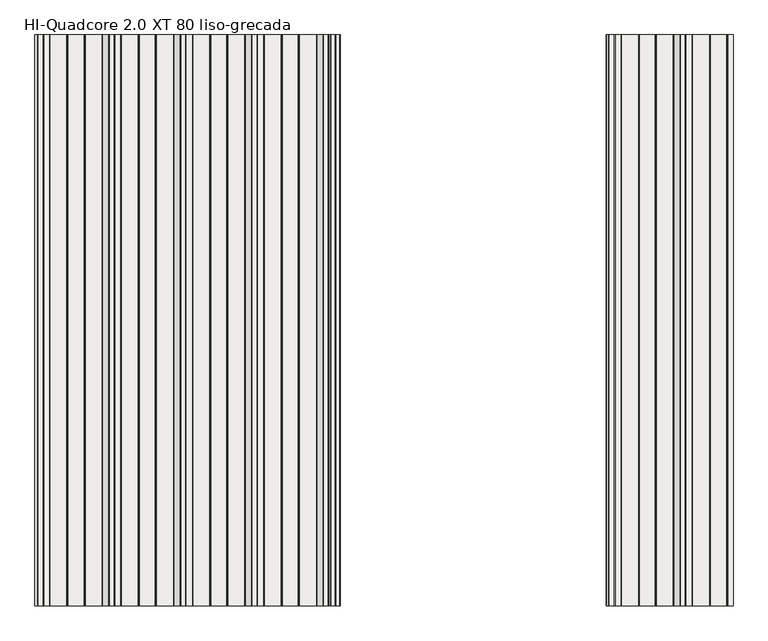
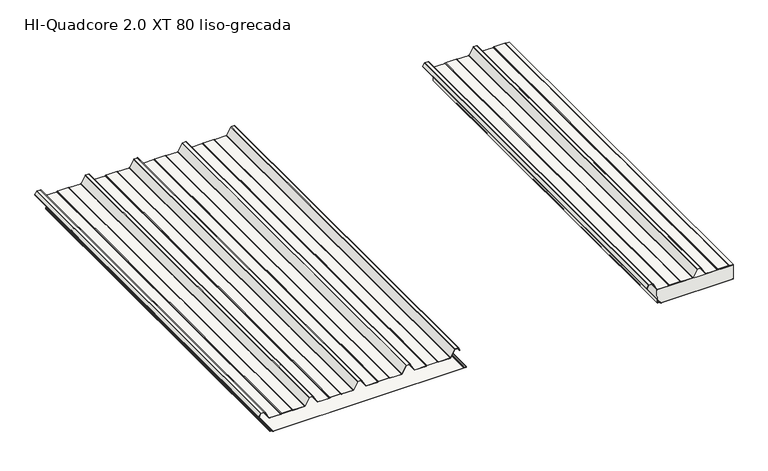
"""IFC4 building model written with IfcOpenShell, lengths in millimetres: slab geometry, HI_QuadCore2.0XT-XT DUAL : HI-Quadcore 2.0 XT 80 liso-grecada."""

from ifc_helpers import new_model, si_unit, point, frame, frame_2d, origin, place, context, project, spatial, polyline, circle_curve, trimmed, segment, composite_curve, outline, extrude, source, transform, mapped, element, save
from ifc_brep_helpers import plane_surface, cylinder_surface, revolved_surface, advanced_brep


def hi_quadcore_2_0_xt_80_liso_grecada_cd35402f(model_context):
    return source(origin(), model_context, "Body", "SolidModel", [
        extrude(outline(composite_curve([segment(polyline([(118.1649405, 2138.5141429), (103.6579587, 2130.3539656)]), True, "CONTINUOUS"), segment(trimmed(circle_curve(frame_2d((103.0451321, 2131.443435)), 1.25), [point((103.6579587, 2130.3539656))], [point((102.689225, 2132.6416963))], False, "CARTESIAN"), True, "CONTINUOUS"), segment(polyline([(102.689225, 2132.6416963), (105.7359115, 2133.437141), (105.9380053, 2132.663088), (102.9074492, 2131.8718547)]), True, "CONTINUOUS"), segment(trimmed(circle_curve(frame_2d((103.0451321, 2131.443435)), 0.45), [point((102.9074492, 2131.8718547))], [point((103.2657497, 2131.051226))], True, "CARTESIAN"), True, "CONTINUOUS"), segment(polyline([(103.2657497, 2131.051226), (117.7727315, 2139.2114033)]), True, "CONTINUOUS"), segment(trimmed(circle_curve(frame_2d((116.4, 2141.6518148)), 2.8), [point((117.7727315, 2139.2114033))], [point((119.2, 2141.6518148))], True, "CARTESIAN"), True, "CONTINUOUS"), segment(polyline([(119.2, 2141.6518148), (119.2, 2158.9311117)]), True, "CONTINUOUS"), segment(trimmed(circle_curve(frame_2d((116.4, 2158.9311117)), 2.8), [point((119.2, 2158.9311117))], [point((117.5457267, 2161.4859719))], True, "CARTESIAN"), True, "CONTINUOUS"), segment(polyline([(117.5457267, 2161.4859719), (81.2048889, 2181.3052775)]), True, "CONTINUOUS"), segment(trimmed(circle_curve(frame_2d((83.0, 2184.6545425)), 3.8), [point((81.2048889, 2181.3052775))], [point((79.2, 2184.6545425))], False, "CARTESIAN"), True, "CONTINUOUS"), segment(polyline([(79.2, 2184.6545425), (79.2, 2242.4489557)]), True, "CONTINUOUS"), segment(trimmed(circle_curve(frame_2d((83.0, 2242.4489557)), 3.8), [point((79.2, 2242.4489557))], [point((79.6973596, 2244.328468))], False, "CARTESIAN"), True, "CONTINUOUS"), segment(polyline([(79.6973596, 2244.328468), (80.912055, 2246.4629056)]), True, "CONTINUOUS"), segment(trimmed(circle_curve(frame_2d((79.0, 2247.5510443)), 2.2), [point((80.912055, 2246.4629056))], [point((81.2, 2247.5510443))], True, "CARTESIAN"), True, "CONTINUOUS"), segment(polyline([(81.2, 2247.5510443), (81.2, 2302.4489557)]), True, "CONTINUOUS"), segment(trimmed(circle_curve(frame_2d((79.0, 2302.4489557)), 2.2), [point((81.2, 2302.4489557))], [point((80.912055, 2303.5370944))], True, "CARTESIAN"), True, "CONTINUOUS"), segment(polyline([(80.912055, 2303.5370944), (79.6973596, 2305.671532)]), True, "CONTINUOUS"), segment(trimmed(circle_curve(frame_2d((83.0, 2307.5510443)), 3.8), [point((79.6973596, 2305.671532))], [point((79.2, 2307.5510443))], False, "CARTESIAN"), True, "CONTINUOUS"), segment(polyline([(79.2, 2307.5510443), (79.2, 2365.7454575)]), True, "CONTINUOUS"), segment(trimmed(circle_curve(frame_2d((83.0, 2365.7454575)), 3.8), [point((79.2, 2365.7454575))], [point((81.1370073, 2369.0574446))], False, "CARTESIAN"), True, "CONTINUOUS"), segment(polyline([(81.1370073, 2369.0574446), (118.0785747, 2389.8370763)]), True, "CONTINUOUS"), segment(trimmed(circle_curve(frame_2d((117.0, 2391.7545425)), 2.2), [point((118.0785747, 2389.8370763))], [point((119.2, 2391.7545425))], True, "CARTESIAN"), True, "CONTINUOUS"), segment(polyline([(119.2, 2391.7545425), (119.2, 2408.2454575)]), True, "CONTINUOUS"), segment(trimmed(circle_curve(frame_2d((117.0, 2408.2454575)), 2.2), [point((119.2, 2408.2454575))], [point((118.0785747, 2410.1629237))], True, "CARTESIAN"), True, "CONTINUOUS"), segment(polyline([(118.0785747, 2410.1629237), (81.1370073, 2430.9425554)]), True, "CONTINUOUS"), segment(trimmed(circle_curve(frame_2d((83.0, 2434.2545425)), 3.8), [point((81.1370073, 2430.9425554))], [point((79.2, 2434.2545425))], False, "CARTESIAN"), True, "CONTINUOUS"), segment(polyline([(79.2, 2434.2545425), (79.2, 2492.4489557)]), True, "CONTINUOUS"), segment(trimmed(circle_curve(frame_2d((83.0, 2492.4489557)), 3.8), [point((79.2, 2492.4489557))], [point((79.6973596, 2494.328468))], False, "CARTESIAN"), True, "CONTINUOUS"), segment(polyline([(79.6973596, 2494.328468), (80.912055, 2496.4629056)]), True, "CONTINUOUS"), segment(trimmed(circle_curve(frame_2d((79.0, 2497.5510443)), 2.2), [point((80.912055, 2496.4629056))], [point((81.2, 2497.5510443))], True, "CARTESIAN"), True, "CONTINUOUS"), segment(polyline([(81.2, 2497.5510443), (81.2, 2552.4489557)]), True, "CONTINUOUS"), segment(trimmed(circle_curve(frame_2d((79.0, 2552.4489557)), 2.2), [point((81.2, 2552.4489557))], [point((80.912055, 2553.5370944))], True, "CARTESIAN"), True, "CONTINUOUS"), segment(polyline([(80.912055, 2553.5370944), (79.6973596, 2555.671532)]), True, "CONTINUOUS"), segment(trimmed(circle_curve(frame_2d((83.0, 2557.5510443)), 3.8), [point((79.6973596, 2555.671532))], [point((79.2, 2557.5510443))], False, "CARTESIAN"), True, "CONTINUOUS"), segment(polyline([(79.2, 2557.5510443), (79.2, 2574.9094573), (80.0, 2574.9094573), (80.0, 2557.5510443)]), True, "CONTINUOUS"), segment(trimmed(circle_curve(frame_2d((83.0, 2557.5510443)), 3.0), [point((80.0, 2557.5510443))], [point((80.3926523, 2556.0672188))], True, "CARTESIAN"), True, "CONTINUOUS"), segment(polyline([(80.3926523, 2556.0672188), (81.6073477, 2553.9327812)]), True, "CONTINUOUS"), segment(trimmed(circle_curve(frame_2d((79.0, 2552.4489557)), 3.0), [point((81.6073477, 2553.9327812))], [point((82.0, 2552.4489557))], False, "CARTESIAN"), True, "CONTINUOUS"), segment(polyline([(82.0, 2552.4489557), (82.0, 2497.5510443)]), True, "CONTINUOUS"), segment(trimmed(circle_curve(frame_2d((79.0, 2497.5510443)), 3.0), [point((82.0, 2497.5510443))], [point((81.6073477, 2496.0672188))], False, "CARTESIAN"), True, "CONTINUOUS"), segment(polyline([(81.6073477, 2496.0672188), (80.3926523, 2493.9327812)]), True, "CONTINUOUS"), segment(trimmed(circle_curve(frame_2d((83.0, 2492.4489557)), 3.0), [point((80.3926523, 2493.9327812))], [point((80.0, 2492.4489557))], True, "CARTESIAN"), True, "CONTINUOUS"), segment(polyline([(80.0, 2492.4489557), (80.0, 2434.2545425)]), True, "CONTINUOUS"), segment(trimmed(circle_curve(frame_2d((83.0, 2434.2545425)), 3.0), [point((80.0, 2434.2545425))], [point((81.5292163, 2431.6398158))], True, "CARTESIAN"), True, "CONTINUOUS"), segment(polyline([(81.5292163, 2431.6398158), (118.4707837, 2410.8601842)]), True, "CONTINUOUS"), segment(trimmed(circle_curve(frame_2d((117.0, 2408.2454575)), 3.0), [point((118.4707837, 2410.8601842))], [point((120.0, 2408.2454575))], False, "CARTESIAN"), True, "CONTINUOUS"), segment(polyline([(120.0, 2408.2454575), (120.0, 2391.7545425)]), True, "CONTINUOUS"), segment(trimmed(circle_curve(frame_2d((117.0, 2391.7545425)), 3.0), [point((120.0, 2391.7545425))], [point((118.4707837, 2389.1398158))], False, "CARTESIAN"), True, "CONTINUOUS"), segment(polyline([(118.4707837, 2389.1398158), (81.5292163, 2368.3601842)]), True, "CONTINUOUS"), segment(trimmed(circle_curve(frame_2d((83.0, 2365.7454575)), 3.0), [point((81.5292163, 2368.3601842))], [point((80.0, 2365.7454575))], True, "CARTESIAN"), True, "CONTINUOUS"), segment(polyline([(80.0, 2365.7454575), (80.0, 2307.5510443)]), True, "CONTINUOUS"), segment(trimmed(circle_curve(frame_2d((83.0, 2307.5510443)), 3.0), [point((80.0, 2307.5510443))], [point((80.3926523, 2306.0672188))], True, "CARTESIAN"), True, "CONTINUOUS"), segment(polyline([(80.3926523, 2306.0672188), (81.6073477, 2303.9327812)]), True, "CONTINUOUS"), segment(trimmed(circle_curve(frame_2d((79.0, 2302.4489557)), 3.0), [point((81.6073477, 2303.9327812))], [point((82.0, 2302.4489557))], False, "CARTESIAN"), True, "CONTINUOUS"), segment(polyline([(82.0, 2302.4489557), (82.0, 2247.5510443)]), True, "CONTINUOUS"), segment(trimmed(circle_curve(frame_2d((79.0, 2247.5510443)), 3.0), [point((82.0, 2247.5510443))], [point((81.6073477, 2246.0672188))], False, "CARTESIAN"), True, "CONTINUOUS"), segment(polyline([(81.6073477, 2246.0672188), (80.3926523, 2243.9327812)]), True, "CONTINUOUS"), segment(trimmed(circle_curve(frame_2d((83.0, 2242.4489557)), 3.0), [point((80.3926523, 2243.9327812))], [point((80.0, 2242.4489557))], True, "CARTESIAN"), True, "CONTINUOUS"), segment(polyline([(80.0, 2242.4489557), (80.0, 2184.6545425)]), True, "CONTINUOUS"), segment(trimmed(circle_curve(frame_2d((83.0, 2184.6545425)), 3.0), [point((80.0, 2184.6545425))], [point((81.5852209, 2182.0090935))], True, "CARTESIAN"), True, "CONTINUOUS"), segment(polyline([(81.5852209, 2182.0090935), (117.9031732, 2162.2022691)]), True, "CONTINUOUS"), segment(trimmed(circle_curve(frame_2d((116.4, 2158.9311117)), 3.6), [point((117.9031732, 2162.2022691))], [point((120.0, 2158.9311117))], False, "CARTESIAN"), True, "CONTINUOUS"), segment(polyline([(120.0, 2158.9311117), (120.0, 2141.6518148)]), True, "CONTINUOUS"), segment(trimmed(circle_curve(frame_2d((116.4, 2141.6518148)), 3.6), [point((120.0, 2141.6518148))], [point((118.1649405, 2138.5141429))], False, "CARTESIAN"), True, "CONTINUOUS")], self_intersect=False)), frame((0.0, 0.0, 0.0), z_axis=(0.0, 1.0, 0.0), x_axis=(0.0, 0.0, 1.0)), (0.0, 0.0, 1.0), 2000.0),
        extrude(outline(composite_curve([segment(trimmed(circle_curve(frame_2d((11.9759207, 2187.8456418)), 2.0), [point((13.390095, 2186.4313891))], [point((11.9758652, 2185.8456418))], False, "CARTESIAN"), True, "CONTINUOUS"), segment(polyline([(11.9758652, 2185.8456418), (8.333684, 2185.8457428)]), True, "CONTINUOUS"), segment(trimmed(circle_curve(frame_2d((8.3337394, 2187.8457428)), 2.0), [point((8.333684, 2185.8457428))], [point((6.3390802, 2187.6996787))], False, "CARTESIAN"), True, "CONTINUOUS"), segment(polyline([(6.3390802, 2187.6996787), (5.5769243, 2198.1077232)]), True, "CONTINUOUS"), segment(trimmed(circle_curve(frame_2d((3.5874027, 2197.9032632)), 2.0), [point((5.5769243, 2198.1077232))], [point((3.5874582, 2199.9032632))], True, "CARTESIAN"), True, "CONTINUOUS"), segment(polyline([(3.5874582, 2199.9032632), (1.9861383, 2199.9033076)]), True, "CONTINUOUS"), segment(trimmed(circle_curve(frame_2d((1.9861938, 2201.9033076)), 2.0), [point((1.9861383, 2199.9033076))], [point((-0.0138062, 2201.903363))], False, "CARTESIAN"), True, "CONTINUOUS"), segment(polyline([(-0.0138062, 2201.903363), (-0.0034654, 2574.9094573), (0.7965346, 2574.9094573), (0.7861938, 2201.9033408)]), True, "CONTINUOUS"), segment(trimmed(circle_curve(frame_2d((1.9861938, 2201.9033076)), 1.2), [point((0.7861938, 2201.9033408))], [point((1.9861605, 2200.7033076))], True, "CARTESIAN"), True, "CONTINUOUS"), segment(polyline([(1.9861605, 2200.7033076), (3.5874804, 2200.7032632)]), True, "CONTINUOUS"), segment(trimmed(circle_curve(frame_2d((3.5874027, 2197.9032632)), 2.8), [point((3.5874804, 2200.7032632))], [point((6.3740035, 2198.1768616))], False, "CARTESIAN"), True, "CONTINUOUS"), segment(polyline([(6.3740035, 2198.1768616), (7.1369439, 2187.7581044)]), True, "CONTINUOUS"), segment(trimmed(circle_curve(frame_2d((8.3337394, 2187.8457428)), 1.2), [point((7.1369439, 2187.7581044))], [point((8.3337062, 2186.6457428))], True, "CARTESIAN"), True, "CONTINUOUS"), segment(polyline([(8.3337062, 2186.6457428), (11.9758874, 2186.6456418)]), True, "CONTINUOUS"), segment(trimmed(circle_curve(frame_2d((11.9759207, 2187.8456418)), 1.2), [point((11.9758874, 2186.6456418))], [point((12.8244253, 2186.9970902))], True, "CARTESIAN"), True, "CONTINUOUS"), segment(polyline([(12.8244253, 2186.9970902), (14.9306702, 2189.1032183), (15.4963556, 2188.5375329), (13.390095, 2186.4313891)]), True, "CONTINUOUS")], self_intersect=False)), frame((0.0, 0.0, 0.0), z_axis=(0.0, 1.0, 0.0), x_axis=(0.0, 0.0, 1.0)), (0.0, 0.0, 1.0), 2000.0),
        extrude(outline(composite_curve([segment(polyline([(14.9306702, 2189.1032183), (12.8244253, 2186.9970902)]), True, "CONTINUOUS"), segment(trimmed(circle_curve(frame_2d((11.9759207, 2187.8456418)), 1.2), [point((12.8244253, 2186.9970902))], [point((11.9758874, 2186.6456418))], False, "CARTESIAN"), True, "CONTINUOUS"), segment(polyline([(11.9758874, 2186.6456418), (8.3337062, 2186.6457428)]), True, "CONTINUOUS"), segment(trimmed(circle_curve(frame_2d((8.3337394, 2187.8457428)), 1.2), [point((8.3337062, 2186.6457428))], [point((7.1369439, 2187.7581044))], False, "CARTESIAN"), True, "CONTINUOUS"), segment(polyline([(7.1369439, 2187.7581044), (6.3740035, 2198.1768616)]), True, "CONTINUOUS"), segment(trimmed(circle_curve(frame_2d((3.5874027, 2197.9032632)), 2.8), [point((6.3740035, 2198.1768616))], [point((3.5874804, 2200.7032632))], True, "CARTESIAN"), True, "CONTINUOUS"), segment(polyline([(3.5874804, 2200.7032632), (1.9861605, 2200.7033076)]), True, "CONTINUOUS"), segment(trimmed(circle_curve(frame_2d((1.9861938, 2201.9033076)), 1.2), [point((1.9861605, 2200.7033076))], [point((0.7861938, 2201.9033408))], False, "CARTESIAN"), True, "CONTINUOUS"), segment(polyline([(0.7861938, 2201.9033408), (0.7965346, 2574.9094573), (78.0, 2574.9094573), (78.0, 2181.4416817), (7.0308356, 2184.4622222), (7.2414508, 2185.8457731), (11.9758652, 2185.8456418)]), True, "CONTINUOUS"), segment(trimmed(circle_curve(frame_2d((11.9759207, 2187.8456418)), 2.0), [point((11.9758652, 2185.8456418))], [point((13.390095, 2186.4313891))], True, "CARTESIAN"), True, "CONTINUOUS"), segment(polyline([(13.390095, 2186.4313891), (15.4963556, 2188.5375329), (14.9306702, 2189.1032183)]), True, "CONTINUOUS")], self_intersect=False)), frame((0.0, 0.0, 0.0), z_axis=(0.0, 1.0, 0.0), x_axis=(0.0, 0.0, 1.0)), (0.0, 0.0, 1.0), 2000.0),
        advanced_brep(
        [(186.4313891, 0.0, 13.3795578), (185.8456418, 0.0, 11.9654043), (185.8456037, 0.0, 8.2995811), (187.6996787, 0.0, 6.328543), (198.1077232, 0.0, 5.5663871), (199.9032632, 0.0, 3.5769209), (199.9033076, 0.0, 1.9756011), (201.903363, 0.0, -0.0243435), (1197.9162803, 0.0, 0.003269), (1199.9046779, 0.0, 2.0032908), (1199.904653, 0.0, 2.9012893), (1198.0077486, 0.0, 4.8985749), (1186.1928118, 0.0, 5.7933732), (1184.3438482, 0.0, 7.7876066), (1184.3437386, 0.0, 11.7402379), (1183.757913, 0.0, 13.1544352), (1182.3436602, 0.0, 14.5686095), (1181.7779748, 0.0, 14.0029241), (1183.1922433, 0.0, 12.5887341), (1183.5437386, 0.0, 11.7402157), (1183.5438482, 0.0, 7.7875844), (1186.1323972, 0.0, 4.9956577), (1197.958132, 0.0, 4.1000416), (1199.104653, 0.0, 2.9012672), (1199.1046779, 0.0, 2.0032686), (1197.9136554, 0.0, 0.8032689), (201.9033408, 0.0, 0.7756565), (200.7033076, 0.0, 1.9756233), (200.7032632, 0.0, 3.5769431), (198.1768616, 0.0, 6.3634663), (187.7581044, 0.0, 7.1264067), (186.6457428, 0.0, 8.3231689), (186.6456418, 0.0, 11.965396), (186.9970902, 0.0, 12.8138881), (189.1032183, 0.0, 14.920133), (188.5375329, 0.0, 15.4858184), (186.4313891, 2000.0, 13.3795578), (188.5375329, 2000.0, 15.4858184), (189.1032183, 2000.0, 14.920133), (186.9970902, 2000.0, 12.8138881), (186.6456418, 2000.0, 11.965396), (186.6456037, 2000.0, 8.2995728), (187.7581044, 2000.0, 7.1264067), (198.1768616, 2000.0, 6.3634663), (200.7032632, 2000.0, 3.5769431), (200.7033076, 2000.0, 1.9756233), (201.9033408, 2000.0, 0.7756565), (1197.9136554, 2000.0, 0.8032689), (1199.1046779, 2000.0, 2.0032686), (1199.104653, 2000.0, 2.9012672), (1197.958132, 2000.0, 4.1000416), (1186.1323972, 2000.0, 4.9956577), (1183.5438482, 2000.0, 7.7875844), (1183.5437386, 2000.0, 11.7402157), (1183.1922433, 2000.0, 12.5887341), (1181.7779748, 2000.0, 14.0029241), (1182.3436602, 2000.0, 14.5686095), (1183.757913, 2000.0, 13.1544352), (1184.3437386, 2000.0, 11.7402379), (1184.3438482, 2000.0, 7.7876066), (1186.1928118, 2000.0, 5.7933732), (1198.0077486, 2000.0, 4.8985749), (1199.904653, 2000.0, 2.9012893), (1199.9046779, 2000.0, 2.0032908), (1197.9162803, 2000.0, 0.003269), (201.903363, 2000.0, -0.0243435), (199.9033076, 2000.0, 1.9756011), (199.9032632, 2000.0, 3.5769209), (198.1077232, 2000.0, 5.5663871), (187.6996787, 2000.0, 6.328543), (185.8457428, 2000.0, 8.3231467), (185.8456418, 2000.0, 11.9654043)],
        [
            (0, 1, circle_curve(frame((187.8456418, 0.0, 11.9653834), z_axis=(0.0, -1.0, 0.0), x_axis=(1.0, 0.0, 0.0)), 2.0)),
            (1, 2),
            (2, 3, circle_curve(frame((187.8457428, 0.0, 8.3232022), z_axis=(0.0, -1.0, 0.0), x_axis=(1.0, 0.0, 0.0)), 2.0)),
            (3, 4),
            (4, 5, circle_curve(frame((197.9032632, 0.0, 3.5768655), z_axis=(0.0, 1.0, 0.0), x_axis=(1.0, 0.0, 0.0)), 2.0)),
            (5, 6),
            (6, 7, circle_curve(frame((201.9033076, 0.0, 1.9756565), z_axis=(0.0, -1.0, 0.0), x_axis=(1.0, 0.0, 0.0)), 2.0)),
            (7, 8),
            (8, 9, circle_curve(frame((1197.9046779, 0.0, 2.0032353), z_axis=(0.0, -1.0, 0.0), x_axis=(1.0, 0.0, 0.0)), 2.0)),
            (9, 10),
            (10, 11, circle_curve(frame((1197.904653, 0.0, 2.9012339), z_axis=(0.0, -1.0, 0.0), x_axis=(1.0, 0.0, 0.0)), 2.0)),
            (11, 12),
            (12, 13, circle_curve(frame((1186.3438482, 0.0, 7.7876621), z_axis=(0.0, 1.0, 0.0), x_axis=(1.0, 0.0, 0.0)), 2.0)),
            (13, 14),
            (14, 15, circle_curve(frame((1182.3437386, 0.0, 11.7401824), z_axis=(0.0, -1.0, 0.0), x_axis=(1.0, 0.0, 0.0)), 2.0)),
            (15, 16),
            (16, 17),
            (17, 18),
            (18, 19, circle_curve(frame((1182.3437386, 0.0, 11.7401824), z_axis=(0.0, 1.0, 0.0), x_axis=(1.0, 0.0, 0.0)), 1.2)),
            (19, 20),
            (20, 21, circle_curve(frame((1186.3438482, 0.0, 7.7876621), z_axis=(0.0, -1.0, 0.0), x_axis=(1.0, 0.0, 0.0)), 2.8)),
            (21, 22),
            (22, 23, circle_curve(frame((1197.904653, 0.0, 2.9012339), z_axis=(0.0, 1.0, 0.0), x_axis=(1.0, 0.0, 0.0)), 1.2)),
            (23, 24),
            (24, 25, circle_curve(frame((1197.9046779, 0.0, 2.0032353), z_axis=(0.0, 1.0, 0.0), x_axis=(1.0, 0.0, 0.0)), 1.2)),
            (25, 26),
            (26, 27, circle_curve(frame((201.9033076, 0.0, 1.9756565), z_axis=(0.0, 1.0, 0.0), x_axis=(1.0, 0.0, 0.0)), 1.2)),
            (27, 28),
            (28, 29, circle_curve(frame((197.9032632, 0.0, 3.5768655), z_axis=(0.0, -1.0, 0.0), x_axis=(1.0, 0.0, 0.0)), 2.8)),
            (29, 30),
            (30, 31, circle_curve(frame((187.8457428, 0.0, 8.3232022), z_axis=(0.0, 1.0, 0.0), x_axis=(1.0, 0.0, 0.0)), 1.2)),
            (31, 32),
            (32, 33, circle_curve(frame((187.8456418, 0.0, 11.9653834), z_axis=(0.0, 1.0, 0.0), x_axis=(1.0, 0.0, 0.0)), 1.2)),
            (33, 34),
            (34, 35),
            (35, 0),
            (36, 37),
            (37, 38),
            (38, 39),
            (39, 40, circle_curve(frame((187.8456418, 2000.0, 11.9653834), z_axis=(0.0, -1.0, 0.0), x_axis=(1.0, 0.0, 0.0)), 1.2)),
            (40, 41),
            (41, 42, circle_curve(frame((187.8457428, 2000.0, 8.3232022), z_axis=(0.0, -1.0, 0.0), x_axis=(1.0, 0.0, 0.0)), 1.2)),
            (42, 43),
            (43, 44, circle_curve(frame((197.9032632, 2000.0, 3.5768655), z_axis=(0.0, 1.0, 0.0), x_axis=(1.0, 0.0, 0.0)), 2.8)),
            (44, 45),
            (45, 46, circle_curve(frame((201.9033076, 2000.0, 1.9756565), z_axis=(0.0, -1.0, 0.0), x_axis=(1.0, 0.0, 0.0)), 1.2)),
            (46, 47),
            (47, 48, circle_curve(frame((1197.9046779, 2000.0, 2.0032353), z_axis=(0.0, -1.0, 0.0), x_axis=(1.0, 0.0, 0.0)), 1.2)),
            (48, 49),
            (49, 50, circle_curve(frame((1197.904653, 2000.0, 2.9012339), z_axis=(0.0, -1.0, 0.0), x_axis=(1.0, 0.0, 0.0)), 1.2)),
            (50, 51),
            (51, 52, circle_curve(frame((1186.3438482, 2000.0, 7.7876621), z_axis=(0.0, 1.0, 0.0), x_axis=(1.0, 0.0, 0.0)), 2.8)),
            (52, 53),
            (53, 54, circle_curve(frame((1182.3437386, 2000.0, 11.7401824), z_axis=(0.0, -1.0, 0.0), x_axis=(1.0, 0.0, 0.0)), 1.2)),
            (54, 55),
            (55, 56),
            (56, 57),
            (57, 58, circle_curve(frame((1182.3437386, 2000.0, 11.7401824), z_axis=(0.0, 1.0, 0.0), x_axis=(1.0, 0.0, 0.0)), 2.0)),
            (58, 59),
            (59, 60, circle_curve(frame((1186.3438482, 2000.0, 7.7876621), z_axis=(0.0, -1.0, 0.0), x_axis=(1.0, 0.0, 0.0)), 2.0)),
            (60, 61),
            (61, 62, circle_curve(frame((1197.904653, 2000.0, 2.9012339), z_axis=(0.0, 1.0, 0.0), x_axis=(1.0, 0.0, 0.0)), 2.0)),
            (62, 63),
            (63, 64, circle_curve(frame((1197.9046779, 2000.0, 2.0032353), z_axis=(0.0, 1.0, 0.0), x_axis=(1.0, 0.0, 0.0)), 2.0)),
            (64, 65),
            (65, 66, circle_curve(frame((201.9033076, 2000.0, 1.9756565), z_axis=(0.0, 1.0, 0.0), x_axis=(1.0, 0.0, 0.0)), 2.0)),
            (66, 67),
            (67, 68, circle_curve(frame((197.9032632, 2000.0, 3.5768655), z_axis=(0.0, -1.0, 0.0), x_axis=(1.0, 0.0, 0.0)), 2.0)),
            (68, 69),
            (69, 70, circle_curve(frame((187.8457428, 2000.0, 8.3232022), z_axis=(0.0, 1.0, 0.0), x_axis=(1.0, 0.0, 0.0)), 2.0)),
            (70, 71),
            (71, 36, circle_curve(frame((187.8456418, 2000.0, 11.9653834), z_axis=(0.0, 1.0, 0.0), x_axis=(1.0, 0.0, 0.0)), 2.0)),
            (0, 36),
            (71, 1),
            (70, 2),
            (69, 3),
            (68, 4),
            (67, 5),
            (66, 6),
            (65, 7),
            (64, 8),
            (63, 9),
            (62, 10),
            (61, 11),
            (60, 12),
            (59, 13),
            (58, 14),
            (57, 15),
            (56, 16),
            (55, 17),
            (54, 18),
            (53, 19),
            (52, 20),
            (51, 21),
            (50, 22),
            (49, 23),
            (48, 24),
            (47, 25),
            (46, 26),
            (45, 27),
            (44, 28),
            (43, 29),
            (42, 30),
            (41, 31),
            (40, 32),
            (39, 33),
            (38, 34),
            (37, 35),
        ],
        [
            plane_surface(frame((189.8456418, 0.0, 11.9653834), z_axis=(0.0, -1.0, 0.0), x_axis=(0.0, 0.0, 1.0))),
            plane_surface(frame((189.8456418, 2000.0, 11.9653834), z_axis=(0.0, 1.0, 0.0), x_axis=(0.0, 0.0, -1.0))),
            cylinder_surface(frame((187.8456418, 2000.0, 11.9653834), z_axis=(0.0, -1.0, 0.0), x_axis=(1.0, 0.0, 0.0)), 2.0),
            plane_surface(frame((185.8456418, 0.0, 11.9654043), z_axis=(-0.9999999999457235, 0.0, 1.041887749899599e-05), x_axis=(0.0, 1.0, 0.0))),
            cylinder_surface(frame((187.8457428, 2000.0, 8.3232022), z_axis=(0.0, -1.0, 0.0), x_axis=(1.0, 0.0, 0.0)), 2.0),
            plane_surface(frame((187.6996787, 0.0, 6.328543), z_axis=(-0.07303203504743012, 0.0, -0.9973295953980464), x_axis=(0.0, 1.0, 0.0))),
            revolved_surface(polyline([(199.9032632, 2000.0, 3.5768655), (199.9032632, 0.0, 3.5768655)]), (197.9032632, 2000.0, 3.5768655), (0.0, 1.0, 0.0)),
            plane_surface(frame((199.9032632, 0.0, 3.5769209), z_axis=(-0.9999999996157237, 0.0, -2.7722781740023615e-05), x_axis=(0.0, 1.0, 0.0))),
            cylinder_surface(frame((201.9033076, 2000.0, 1.9756565), z_axis=(0.0, -1.0, 0.0), x_axis=(1.0, 0.0, 0.0)), 2.0),
            plane_surface(frame((201.903363, 0.0, -0.0243435), z_axis=(2.772298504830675e-05, 0.0, -0.9999999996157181), x_axis=(0.0, 1.0, 0.0))),
            cylinder_surface(frame((1197.9046779, 2000.0, 2.0032353), z_axis=(0.0, -1.0, 0.0), x_axis=(1.0, 0.0, 0.0)), 2.0),
            plane_surface(frame((1199.9046779, 0.0, 2.0032908), z_axis=(0.9999999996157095, 0.0, 2.7723295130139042e-05), x_axis=(0.0, 1.0, 0.0))),
            cylinder_surface(frame((1197.904653, 2000.0, 2.9012339), z_axis=(0.0, -1.0, 0.0), x_axis=(1.0, 0.0, 0.0)), 2.0),
            plane_surface(frame((1198.0077486, 0.0, 4.8985749), z_axis=(0.07551822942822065, 0.0, 0.9971444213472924), x_axis=(0.0, 1.0, 0.0))),
            revolved_surface(polyline([(1188.3438482, 2000.0, 7.7876621), (1188.3438482, 0.0, 7.7876621)]), (1186.3438482, 2000.0, 7.7876621), (0.0, 1.0, 0.0)),
            plane_surface(frame((1184.3438482, 0.0, 7.7876066), z_axis=(0.9999999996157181, 0.0, 2.7722984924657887e-05), x_axis=(0.0, 1.0, 0.0))),
            cylinder_surface(frame((1182.3437386, 2000.0, 11.7401824), z_axis=(0.0, -1.0, 0.0), x_axis=(1.0, 0.0, 0.0)), 2.0),
            plane_surface(frame((1183.757913, 0.0, 13.1544352), z_axis=(0.7070871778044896, 0.0, 0.7071263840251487), x_axis=(0.0, 1.0, 0.0))),
            plane_surface(frame((1182.3436602, 0.0, 14.5686095), z_axis=(-0.7071067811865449, 0.0, 0.7071067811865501), x_axis=(0.0, 1.0, 0.0))),
            plane_surface(frame((1181.7779748, 0.0, 14.0029241), z_axis=(-0.7070871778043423, 0.0, -0.707126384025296), x_axis=(0.0, 1.0, 0.0))),
            revolved_surface(polyline([(1183.5437386, 2000.0, 11.7401824), (1183.5437386, 0.0, 11.7401824)]), (1182.3437386, 2000.0, 11.7401824), (0.0, 1.0, 0.0)),
            plane_surface(frame((1183.5437386, 0.0, 11.7402157), z_axis=(-0.9999999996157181, 0.0, -2.7722985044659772e-05), x_axis=(0.0, 1.0, 0.0))),
            cylinder_surface(frame((1186.3438482, 2000.0, 7.7876621), z_axis=(0.0, -1.0, 0.0), x_axis=(1.0, 0.0, 0.0)), 2.8),
            plane_surface(frame((1186.1323972, 0.0, 4.9956577), z_axis=(-0.07551822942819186, 0.0, -0.9971444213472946), x_axis=(0.0, 1.0, 0.0))),
            revolved_surface(polyline([(1199.104653, 2000.0, 2.9012339), (1199.104653, 0.0, 2.9012339)]), (1197.904653, 2000.0, 2.9012339), (0.0, 1.0, 0.0)),
            plane_surface(frame((1199.104653, 0.0, 2.9012672), z_axis=(-0.9999999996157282, 0.0, -2.7722622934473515e-05), x_axis=(0.0, 1.0, 0.0))),
            revolved_surface(polyline([(1199.1046779, 2000.0, 2.0032353), (1199.1046779, 0.0, 2.0032353)]), (1197.9046779, 2000.0, 2.0032353), (0.0, 1.0, 0.0)),
            plane_surface(frame((1197.9136554, 0.0, 0.8032689), z_axis=(-2.7722985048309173e-05, 0.0, 0.9999999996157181), x_axis=(0.0, 1.0, 0.0))),
            revolved_surface(polyline([(203.1033076, 2000.0, 1.9756565), (203.1033076, 0.0, 1.9756565)]), (201.9033076, 2000.0, 1.9756565), (0.0, 1.0, 0.0)),
            plane_surface(frame((200.7033076, 0.0, 1.9756233), z_axis=(0.9999999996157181, 0.0, 2.7722983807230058e-05), x_axis=(0.0, 1.0, 0.0))),
            cylinder_surface(frame((197.9032632, 2000.0, 3.5768655), z_axis=(0.0, -1.0, 0.0), x_axis=(1.0, 0.0, 0.0)), 2.8),
            plane_surface(frame((198.1768616, 0.0, 6.3634663), z_axis=(0.0730320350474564, 0.0, 0.9973295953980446), x_axis=(0.0, 1.0, 0.0))),
            revolved_surface(polyline([(189.0457428, 2000.0, 8.3232022), (189.0457428, 0.0, 8.3232022)]), (187.8457428, 2000.0, 8.3232022), (0.0, 1.0, 0.0)),
            plane_surface(frame((186.6456037, 0.0, 8.2995728), z_axis=(0.9999999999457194, 0.0, -1.0419274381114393e-05), x_axis=(0.0, 1.0, 0.0))),
            revolved_surface(polyline([(189.0456418, 2000.0, 11.9653834), (189.0456418, 0.0, 11.9653834)]), (187.8456418, 2000.0, 11.9653834), (0.0, 1.0, 0.0)),
            plane_surface(frame((186.9970902, 0.0, 12.8138881), z_axis=(0.7071263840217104, 0.0, -0.7070871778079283), x_axis=(0.0, 1.0, 0.0))),
            plane_surface(frame((189.1032183, 0.0, 14.920133), z_axis=(0.7071067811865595, 0.0, 0.7071067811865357), x_axis=(0.0, 1.0, 0.0))),
            plane_surface(frame((188.5375329, 0.0, 15.4858184), z_axis=(-0.7071263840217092, 0.0, 0.7070871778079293), x_axis=(0.0, 1.0, 0.0))),
        ],
        [
            (0, [[1, 2, 3, 4, 5, 6, 7, 8, 9, 10, 11, 12, 13, 14, 15, 16, 17, 18, 19, 20, 21, 22, 23, 24, 25, 26, 27, 28, 29, 30, 31, 32, 33, 34, 35, 36]]),
            (1, [[37, 38, 39, 40, 41, 42, 43, 44, 45, 46, 47, 48, 49, 50, 51, 52, 53, 54, 55, 56, 57, 58, 59, 60, 61, 62, 63, 64, 65, 66, 67, 68, 69, 70, 71, 72]]),
            (2, [[-1, 73, -72, 74]]),
            (3, [[-2, -74, -71, 75]]),
            (4, [[-3, -75, -70, 76]]),
            (5, [[-4, -76, -69, 77]]),
            (6, [[-5, -77, -68, 78]]),
            (7, [[-6, -78, -67, 79]]),
            (8, [[-7, -79, -66, 80]]),
            (9, [[-8, -80, -65, 81]]),
            (10, [[-9, -81, -64, 82]]),
            (11, [[-10, -82, -63, 83]]),
            (12, [[-11, -83, -62, 84]]),
            (13, [[-12, -84, -61, 85]]),
            (14, [[-13, -85, -60, 86]]),
            (15, [[-14, -86, -59, 87]]),
            (16, [[-15, -87, -58, 88]]),
            (17, [[-16, -88, -57, 89]]),
            (18, [[-17, -89, -56, 90]]),
            (19, [[-18, -90, -55, 91]]),
            (20, [[-19, -91, -54, 92]]),
            (21, [[-20, -92, -53, 93]]),
            (22, [[-21, -93, -52, 94]]),
            (23, [[-22, -94, -51, 95]]),
            (24, [[-23, -95, -50, 96]]),
            (25, [[-24, -96, -49, 97]]),
            (26, [[-25, -97, -48, 98]]),
            (27, [[-26, -98, -47, 99]]),
            (28, [[-27, -99, -46, 100]]),
            (29, [[-28, -100, -45, 101]]),
            (30, [[-29, -101, -44, 102]]),
            (31, [[-30, -102, -43, 103]]),
            (32, [[-31, -103, -42, 104]]),
            (33, [[-32, -104, -41, 105]]),
            (34, [[-33, -105, -40, 106]]),
            (35, [[-34, -106, -39, 107]]),
            (36, [[-35, -107, -38, 108]]),
            (37, [[-36, -108, -37, -73]]),
        ],
    ),
        extrude(outline(composite_curve([segment(polyline([(118.1649405, 138.5141429), (103.6579587, 130.3539656)]), True, "CONTINUOUS"), segment(trimmed(circle_curve(frame_2d((103.0451321, 131.443435)), 1.25), [point((103.6579587, 130.3539656))], [point((102.689225, 132.6416963))], False, "CARTESIAN"), True, "CONTINUOUS"), segment(polyline([(102.689225, 132.6416963), (105.7359115, 133.437141), (105.9380053, 132.663088), (102.9074492, 131.8718547)]), True, "CONTINUOUS"), segment(trimmed(circle_curve(frame_2d((103.0451321, 131.443435)), 0.45), [point((102.9074492, 131.8718547))], [point((103.2657497, 131.051226))], True, "CARTESIAN"), True, "CONTINUOUS"), segment(polyline([(103.2657497, 131.051226), (117.7727315, 139.2114033)]), True, "CONTINUOUS"), segment(trimmed(circle_curve(frame_2d((116.4, 141.6518148)), 2.8), [point((117.7727315, 139.2114033))], [point((119.2, 141.6518148))], True, "CARTESIAN"), True, "CONTINUOUS"), segment(polyline([(119.2, 141.6518148), (119.2, 158.9311117)]), True, "CONTINUOUS"), segment(trimmed(circle_curve(frame_2d((116.4, 158.9311117)), 2.8), [point((119.2, 158.9311117))], [point((117.5457267, 161.4859719))], True, "CARTESIAN"), True, "CONTINUOUS"), segment(polyline([(117.5457267, 161.4859719), (81.2048889, 181.3052775)]), True, "CONTINUOUS"), segment(trimmed(circle_curve(frame_2d((83.0, 184.6545425)), 3.8), [point((81.2048889, 181.3052775))], [point((79.2, 184.6545425))], False, "CARTESIAN"), True, "CONTINUOUS"), segment(polyline([(79.2, 184.6545425), (79.2, 242.4489557)]), True, "CONTINUOUS"), segment(trimmed(circle_curve(frame_2d((83.0, 242.4489557)), 3.8), [point((79.2, 242.4489557))], [point((79.6973596, 244.328468))], False, "CARTESIAN"), True, "CONTINUOUS"), segment(polyline([(79.6973596, 244.328468), (80.912055, 246.4629056)]), True, "CONTINUOUS"), segment(trimmed(circle_curve(frame_2d((79.0, 247.5510443)), 2.2), [point((80.912055, 246.4629056))], [point((81.2, 247.5510443))], True, "CARTESIAN"), True, "CONTINUOUS"), segment(polyline([(81.2, 247.5510443), (81.2, 302.4489557)]), True, "CONTINUOUS"), segment(trimmed(circle_curve(frame_2d((79.0, 302.4489557)), 2.2), [point((81.2, 302.4489557))], [point((80.912055, 303.5370944))], True, "CARTESIAN"), True, "CONTINUOUS"), segment(polyline([(80.912055, 303.5370944), (79.6973596, 305.671532)]), True, "CONTINUOUS"), segment(trimmed(circle_curve(frame_2d((83.0, 307.5510443)), 3.8), [point((79.6973596, 305.671532))], [point((79.2, 307.5510443))], False, "CARTESIAN"), True, "CONTINUOUS"), segment(polyline([(79.2, 307.5510443), (79.2, 365.7454575)]), True, "CONTINUOUS"), segment(trimmed(circle_curve(frame_2d((83.0, 365.7454575)), 3.8), [point((79.2, 365.7454575))], [point((81.1370073, 369.0574446))], False, "CARTESIAN"), True, "CONTINUOUS"), segment(polyline([(81.1370073, 369.0574446), (118.0785747, 389.8370763)]), True, "CONTINUOUS"), segment(trimmed(circle_curve(frame_2d((117.0, 391.7545425)), 2.2), [point((118.0785747, 389.8370763))], [point((119.2, 391.7545425))], True, "CARTESIAN"), True, "CONTINUOUS"), segment(polyline([(119.2, 391.7545425), (119.2, 408.2454575)]), True, "CONTINUOUS"), segment(trimmed(circle_curve(frame_2d((117.0, 408.2454575)), 2.2), [point((119.2, 408.2454575))], [point((118.0785747, 410.1629237))], True, "CARTESIAN"), True, "CONTINUOUS"), segment(polyline([(118.0785747, 410.1629237), (81.1370073, 430.9425554)]), True, "CONTINUOUS"), segment(trimmed(circle_curve(frame_2d((83.0, 434.2545425)), 3.8), [point((81.1370073, 430.9425554))], [point((79.2, 434.2545425))], False, "CARTESIAN"), True, "CONTINUOUS"), segment(polyline([(79.2, 434.2545425), (79.2, 492.4489557)]), True, "CONTINUOUS"), segment(trimmed(circle_curve(frame_2d((83.0, 492.4489557)), 3.8), [point((79.2, 492.4489557))], [point((79.6973596, 494.328468))], False, "CARTESIAN"), True, "CONTINUOUS"), segment(polyline([(79.6973596, 494.328468), (80.912055, 496.4629056)]), True, "CONTINUOUS"), segment(trimmed(circle_curve(frame_2d((79.0, 497.5510443)), 2.2), [point((80.912055, 496.4629056))], [point((81.2, 497.5510443))], True, "CARTESIAN"), True, "CONTINUOUS"), segment(polyline([(81.2, 497.5510443), (81.2, 552.4489557)]), True, "CONTINUOUS"), segment(trimmed(circle_curve(frame_2d((79.0, 552.4489557)), 2.2), [point((81.2, 552.4489557))], [point((80.912055, 553.5370944))], True, "CARTESIAN"), True, "CONTINUOUS"), segment(polyline([(80.912055, 553.5370944), (79.6973596, 555.671532)]), True, "CONTINUOUS"), segment(trimmed(circle_curve(frame_2d((83.0, 557.5510443)), 3.8), [point((79.6973596, 555.671532))], [point((79.2, 557.5510443))], False, "CARTESIAN"), True, "CONTINUOUS"), segment(polyline([(79.2, 557.5510443), (79.2, 615.7454575)]), True, "CONTINUOUS"), segment(trimmed(circle_curve(frame_2d((83.0, 615.7454575)), 3.8), [point((79.2, 615.7454575))], [point((81.1370073, 619.0574446))], False, "CARTESIAN"), True, "CONTINUOUS"), segment(polyline([(81.1370073, 619.0574446), (118.0785747, 639.8370763)]), True, "CONTINUOUS"), segment(trimmed(circle_curve(frame_2d((117.0, 641.7545425)), 2.2), [point((118.0785747, 639.8370763))], [point((119.2, 641.7545425))], True, "CARTESIAN"), True, "CONTINUOUS"), segment(polyline([(119.2, 641.7545425), (119.2, 658.2454575)]), True, "CONTINUOUS"), segment(trimmed(circle_curve(frame_2d((117.0, 658.2454575)), 2.2), [point((119.2, 658.2454575))], [point((118.0785747, 660.1629237))], True, "CARTESIAN"), True, "CONTINUOUS"), segment(polyline([(118.0785747, 660.1629237), (81.1370073, 680.9425554)]), True, "CONTINUOUS"), segment(trimmed(circle_curve(frame_2d((83.0, 684.2545425)), 3.8), [point((81.1370073, 680.9425554))], [point((79.2, 684.2545425))], False, "CARTESIAN"), True, "CONTINUOUS"), segment(polyline([(79.2, 684.2545425), (79.2, 742.4489557)]), True, "CONTINUOUS"), segment(trimmed(circle_curve(frame_2d((83.0, 742.4489557)), 3.8), [point((79.2, 742.4489557))], [point((79.6973596, 744.328468))], False, "CARTESIAN"), True, "CONTINUOUS"), segment(polyline([(79.6973596, 744.328468), (80.912055, 746.4629056)]), True, "CONTINUOUS"), segment(trimmed(circle_curve(frame_2d((79.0, 747.5510443)), 2.2), [point((80.912055, 746.4629056))], [point((81.2, 747.5510443))], True, "CARTESIAN"), True, "CONTINUOUS"), segment(polyline([(81.2, 747.5510443), (81.2, 802.4489557)]), True, "CONTINUOUS"), segment(trimmed(circle_curve(frame_2d((79.0, 802.4489557)), 2.2), [point((81.2, 802.4489557))], [point((80.912055, 803.5370944))], True, "CARTESIAN"), True, "CONTINUOUS"), segment(polyline([(80.912055, 803.5370944), (79.6973596, 805.671532)]), True, "CONTINUOUS"), segment(trimmed(circle_curve(frame_2d((83.0, 807.5510443)), 3.8), [point((79.6973596, 805.671532))], [point((79.2, 807.5510443))], False, "CARTESIAN"), True, "CONTINUOUS"), segment(polyline([(79.2, 807.5510443), (79.2, 865.7454575)]), True, "CONTINUOUS"), segment(trimmed(circle_curve(frame_2d((83.0, 865.7454575)), 3.8), [point((79.2, 865.7454575))], [point((81.1370073, 869.0574446))], False, "CARTESIAN"), True, "CONTINUOUS"), segment(polyline([(81.1370073, 869.0574446), (118.0785747, 889.8370763)]), True, "CONTINUOUS"), segment(trimmed(circle_curve(frame_2d((117.0, 891.7545425)), 2.2), [point((118.0785747, 889.8370763))], [point((119.2, 891.7545425))], True, "CARTESIAN"), True, "CONTINUOUS"), segment(polyline([(119.2, 891.7545425), (119.2, 908.2454575)]), True, "CONTINUOUS"), segment(trimmed(circle_curve(frame_2d((117.0, 908.2454575)), 2.2), [point((119.2, 908.2454575))], [point((118.0785747, 910.1629237))], True, "CARTESIAN"), True, "CONTINUOUS"), segment(polyline([(118.0785747, 910.1629237), (81.1370073, 930.9425554)]), True, "CONTINUOUS"), segment(trimmed(circle_curve(frame_2d((83.0, 934.2545425)), 3.8), [point((81.1370073, 930.9425554))], [point((79.2, 934.2545425))], False, "CARTESIAN"), True, "CONTINUOUS"), segment(polyline([(79.2, 934.2545425), (79.2, 992.4489557)]), True, "CONTINUOUS"), segment(trimmed(circle_curve(frame_2d((83.0, 992.4489557)), 3.8), [point((79.2, 992.4489557))], [point((79.6973596, 994.328468))], False, "CARTESIAN"), True, "CONTINUOUS"), segment(polyline([(79.6973596, 994.328468), (80.912055, 996.4629056)]), True, "CONTINUOUS"), segment(trimmed(circle_curve(frame_2d((79.0, 997.5510443)), 2.2), [point((80.912055, 996.4629056))], [point((81.2, 997.5510443))], True, "CARTESIAN"), True, "CONTINUOUS"), segment(polyline([(81.2, 997.5510443), (81.2, 1052.4489557)]), True, "CONTINUOUS"), segment(trimmed(circle_curve(frame_2d((79.0, 1052.4489557)), 2.2), [point((81.2, 1052.4489557))], [point((80.912055, 1053.5370944))], True, "CARTESIAN"), True, "CONTINUOUS"), segment(polyline([(80.912055, 1053.5370944), (79.6973596, 1055.671532)]), True, "CONTINUOUS"), segment(trimmed(circle_curve(frame_2d((83.0, 1057.5510443)), 3.8), [point((79.6973596, 1055.671532))], [point((79.2, 1057.5510443))], False, "CARTESIAN"), True, "CONTINUOUS"), segment(polyline([(79.2, 1057.5510443), (79.2, 1116.4208923)]), True, "CONTINUOUS"), segment(trimmed(circle_curve(frame_2d((83.0, 1116.4208923)), 3.8), [point((79.2, 1116.4208923))], [point((81.1583504, 1119.7447946))], False, "CARTESIAN"), True, "CONTINUOUS"), segment(polyline([(81.1583504, 1119.7447946), (118.0662182, 1140.1940602)]), True, "CONTINUOUS"), segment(trimmed(circle_curve(frame_2d((117.0, 1142.1184247)), 2.2), [point((118.0662182, 1140.1940602))], [point((119.2, 1142.1184247))], True, "CARTESIAN"), True, "CONTINUOUS"), segment(polyline([(119.2, 1142.1184247), (119.2, 1157.4945491)]), True, "CONTINUOUS"), segment(trimmed(circle_curve(frame_2d((117.0, 1157.4945491)), 2.2), [point((119.2, 1157.4945491))], [point((118.0785747, 1159.4120152))], True, "CARTESIAN"), True, "CONTINUOUS"), segment(polyline([(118.0785747, 1159.4120152), (107.5275176, 1165.3469849)]), True, "CONTINUOUS"), segment(trimmed(circle_curve(frame_2d((106.9392041, 1164.3010942)), 1.2), [point((107.5275176, 1165.3469849))], [point((106.3392623, 1165.3403583))], True, "CARTESIAN"), True, "CONTINUOUS"), segment(polyline([(106.3392623, 1165.3403583), (104.7281681, 1164.4103128), (104.3282068, 1165.1031555), (105.939301, 1166.033201)]), True, "CONTINUOUS"), segment(trimmed(circle_curve(frame_2d((106.9392041, 1164.3010942)), 2.0), [point((105.939301, 1166.033201))], [point((107.9197266, 1166.0442453))], False, "CARTESIAN"), True, "CONTINUOUS"), segment(polyline([(107.9197266, 1166.0442453), (118.4707837, 1160.1092757)]), True, "CONTINUOUS"), segment(trimmed(circle_curve(frame_2d((117.0, 1157.4945491)), 3.0), [point((118.4707837, 1160.1092757))], [point((120.0, 1157.4945491))], False, "CARTESIAN"), True, "CONTINUOUS"), segment(polyline([(120.0, 1157.4945491), (120.0, 1142.1184247)]), True, "CONTINUOUS"), segment(trimmed(circle_curve(frame_2d((117.0, 1142.1184247)), 3.0), [point((120.0, 1142.1184247))], [point((118.4539339, 1139.4942913))], False, "CARTESIAN"), True, "CONTINUOUS"), segment(polyline([(118.4539339, 1139.4942913), (81.5460661, 1119.0450257)]), True, "CONTINUOUS"), segment(trimmed(circle_curve(frame_2d((83.0, 1116.4208923)), 3.0), [point((81.5460661, 1119.0450257))], [point((80.0, 1116.4208923))], True, "CARTESIAN"), True, "CONTINUOUS"), segment(polyline([(80.0, 1116.4208923), (80.0, 1057.5510443)]), True, "CONTINUOUS"), segment(trimmed(circle_curve(frame_2d((83.0, 1057.5510443)), 3.0), [point((80.0, 1057.5510443))], [point((80.3926523, 1056.0672188))], True, "CARTESIAN"), True, "CONTINUOUS"), segment(polyline([(80.3926523, 1056.0672188), (81.6073477, 1053.9327812)]), True, "CONTINUOUS"), segment(trimmed(circle_curve(frame_2d((79.0, 1052.4489557)), 3.0), [point((81.6073477, 1053.9327812))], [point((82.0, 1052.4489557))], False, "CARTESIAN"), True, "CONTINUOUS"), segment(polyline([(82.0, 1052.4489557), (82.0, 997.5510443)]), True, "CONTINUOUS"), segment(trimmed(circle_curve(frame_2d((79.0, 997.5510443)), 3.0), [point((82.0, 997.5510443))], [point((81.6073477, 996.0672188))], False, "CARTESIAN"), True, "CONTINUOUS"), segment(polyline([(81.6073477, 996.0672188), (80.3926523, 993.9327812)]), True, "CONTINUOUS"), segment(trimmed(circle_curve(frame_2d((83.0, 992.4489557)), 3.0), [point((80.3926523, 993.9327812))], [point((80.0, 992.4489557))], True, "CARTESIAN"), True, "CONTINUOUS"), segment(polyline([(80.0, 992.4489557), (80.0, 934.2545425)]), True, "CONTINUOUS"), segment(trimmed(circle_curve(frame_2d((83.0, 934.2545425)), 3.0), [point((80.0, 934.2545425))], [point((81.5292163, 931.6398158))], True, "CARTESIAN"), True, "CONTINUOUS"), segment(polyline([(81.5292163, 931.6398158), (118.4707837, 910.8601842)]), True, "CONTINUOUS"), segment(trimmed(circle_curve(frame_2d((117.0, 908.2454575)), 3.0), [point((118.4707837, 910.8601842))], [point((120.0, 908.2454575))], False, "CARTESIAN"), True, "CONTINUOUS"), segment(polyline([(120.0, 908.2454575), (120.0, 891.7545425)]), True, "CONTINUOUS"), segment(trimmed(circle_curve(frame_2d((117.0, 891.7545425)), 3.0), [point((120.0, 891.7545425))], [point((118.4707837, 889.1398158))], False, "CARTESIAN"), True, "CONTINUOUS"), segment(polyline([(118.4707837, 889.1398158), (81.5292163, 868.3601842)]), True, "CONTINUOUS"), segment(trimmed(circle_curve(frame_2d((83.0, 865.7454575)), 3.0), [point((81.5292163, 868.3601842))], [point((80.0, 865.7454575))], True, "CARTESIAN"), True, "CONTINUOUS"), segment(polyline([(80.0, 865.7454575), (80.0, 807.5510443)]), True, "CONTINUOUS"), segment(trimmed(circle_curve(frame_2d((83.0, 807.5510443)), 3.0), [point((80.0, 807.5510443))], [point((80.3926523, 806.0672188))], True, "CARTESIAN"), True, "CONTINUOUS"), segment(polyline([(80.3926523, 806.0672188), (81.6073477, 803.9327812)]), True, "CONTINUOUS"), segment(trimmed(circle_curve(frame_2d((79.0, 802.4489557)), 3.0), [point((81.6073477, 803.9327812))], [point((82.0, 802.4489557))], False, "CARTESIAN"), True, "CONTINUOUS"), segment(polyline([(82.0, 802.4489557), (82.0, 747.5510443)]), True, "CONTINUOUS"), segment(trimmed(circle_curve(frame_2d((79.0, 747.5510443)), 3.0), [point((82.0, 747.5510443))], [point((81.6073477, 746.0672188))], False, "CARTESIAN"), True, "CONTINUOUS"), segment(polyline([(81.6073477, 746.0672188), (80.3926523, 743.9327812)]), True, "CONTINUOUS"), segment(trimmed(circle_curve(frame_2d((83.0, 742.4489557)), 3.0), [point((80.3926523, 743.9327812))], [point((80.0, 742.4489557))], True, "CARTESIAN"), True, "CONTINUOUS"), segment(polyline([(80.0, 742.4489557), (80.0, 684.2545425)]), True, "CONTINUOUS"), segment(trimmed(circle_curve(frame_2d((83.0, 684.2545425)), 3.0), [point((80.0, 684.2545425))], [point((81.5292163, 681.6398158))], True, "CARTESIAN"), True, "CONTINUOUS"), segment(polyline([(81.5292163, 681.6398158), (118.4707837, 660.8601842)]), True, "CONTINUOUS"), segment(trimmed(circle_curve(frame_2d((117.0, 658.2454575)), 3.0), [point((118.4707837, 660.8601842))], [point((120.0, 658.2454575))], False, "CARTESIAN"), True, "CONTINUOUS"), segment(polyline([(120.0, 658.2454575), (120.0, 641.7545425)]), True, "CONTINUOUS"), segment(trimmed(circle_curve(frame_2d((117.0, 641.7545425)), 3.0), [point((120.0, 641.7545425))], [point((118.4707837, 639.1398158))], False, "CARTESIAN"), True, "CONTINUOUS"), segment(polyline([(118.4707837, 639.1398158), (81.5292163, 618.3601842)]), True, "CONTINUOUS"), segment(trimmed(circle_curve(frame_2d((83.0, 615.7454575)), 3.0), [point((81.5292163, 618.3601842))], [point((80.0, 615.7454575))], True, "CARTESIAN"), True, "CONTINUOUS"), segment(polyline([(80.0, 615.7454575), (80.0, 557.5510443)]), True, "CONTINUOUS"), segment(trimmed(circle_curve(frame_2d((83.0, 557.5510443)), 3.0), [point((80.0, 557.5510443))], [point((80.3926523, 556.0672188))], True, "CARTESIAN"), True, "CONTINUOUS"), segment(polyline([(80.3926523, 556.0672188), (81.6073477, 553.9327812)]), True, "CONTINUOUS"), segment(trimmed(circle_curve(frame_2d((79.0, 552.4489557)), 3.0), [point((81.6073477, 553.9327812))], [point((82.0, 552.4489557))], False, "CARTESIAN"), True, "CONTINUOUS"), segment(polyline([(82.0, 552.4489557), (82.0, 497.5510443)]), True, "CONTINUOUS"), segment(trimmed(circle_curve(frame_2d((79.0, 497.5510443)), 3.0), [point((82.0, 497.5510443))], [point((81.6073477, 496.0672188))], False, "CARTESIAN"), True, "CONTINUOUS"), segment(polyline([(81.6073477, 496.0672188), (80.3926523, 493.9327812)]), True, "CONTINUOUS"), segment(trimmed(circle_curve(frame_2d((83.0, 492.4489557)), 3.0), [point((80.3926523, 493.9327812))], [point((80.0, 492.4489557))], True, "CARTESIAN"), True, "CONTINUOUS"), segment(polyline([(80.0, 492.4489557), (80.0, 434.2545425)]), True, "CONTINUOUS"), segment(trimmed(circle_curve(frame_2d((83.0, 434.2545425)), 3.0), [point((80.0, 434.2545425))], [point((81.5292163, 431.6398158))], True, "CARTESIAN"), True, "CONTINUOUS"), segment(polyline([(81.5292163, 431.6398158), (118.4707837, 410.8601842)]), True, "CONTINUOUS"), segment(trimmed(circle_curve(frame_2d((117.0, 408.2454575)), 3.0), [point((118.4707837, 410.8601842))], [point((120.0, 408.2454575))], False, "CARTESIAN"), True, "CONTINUOUS"), segment(polyline([(120.0, 408.2454575), (120.0, 391.7545425)]), True, "CONTINUOUS"), segment(trimmed(circle_curve(frame_2d((117.0, 391.7545425)), 3.0), [point((120.0, 391.7545425))], [point((118.4707837, 389.1398158))], False, "CARTESIAN"), True, "CONTINUOUS"), segment(polyline([(118.4707837, 389.1398158), (81.5292163, 368.3601842)]), True, "CONTINUOUS"), segment(trimmed(circle_curve(frame_2d((83.0, 365.7454575)), 3.0), [point((81.5292163, 368.3601842))], [point((80.0, 365.7454575))], True, "CARTESIAN"), True, "CONTINUOUS"), segment(polyline([(80.0, 365.7454575), (80.0, 307.5510443)]), True, "CONTINUOUS"), segment(trimmed(circle_curve(frame_2d((83.0, 307.5510443)), 3.0), [point((80.0, 307.5510443))], [point((80.3926523, 306.0672188))], True, "CARTESIAN"), True, "CONTINUOUS"), segment(polyline([(80.3926523, 306.0672188), (81.6073477, 303.9327812)]), True, "CONTINUOUS"), segment(trimmed(circle_curve(frame_2d((79.0, 302.4489557)), 3.0), [point((81.6073477, 303.9327812))], [point((82.0, 302.4489557))], False, "CARTESIAN"), True, "CONTINUOUS"), segment(polyline([(82.0, 302.4489557), (82.0, 247.5510443)]), True, "CONTINUOUS"), segment(trimmed(circle_curve(frame_2d((79.0, 247.5510443)), 3.0), [point((82.0, 247.5510443))], [point((81.6073477, 246.0672188))], False, "CARTESIAN"), True, "CONTINUOUS"), segment(polyline([(81.6073477, 246.0672188), (80.3926523, 243.9327812)]), True, "CONTINUOUS"), segment(trimmed(circle_curve(frame_2d((83.0, 242.4489557)), 3.0), [point((80.3926523, 243.9327812))], [point((80.0, 242.4489557))], True, "CARTESIAN"), True, "CONTINUOUS"), segment(polyline([(80.0, 242.4489557), (80.0, 184.6545425)]), True, "CONTINUOUS"), segment(trimmed(circle_curve(frame_2d((83.0, 184.6545425)), 3.0), [point((80.0, 184.6545425))], [point((81.5852209, 182.0090935))], True, "CARTESIAN"), True, "CONTINUOUS"), segment(polyline([(81.5852209, 182.0090935), (117.9031732, 162.2022691)]), True, "CONTINUOUS"), segment(trimmed(circle_curve(frame_2d((116.4, 158.9311117)), 3.6), [point((117.9031732, 162.2022691))], [point((120.0, 158.9311117))], False, "CARTESIAN"), True, "CONTINUOUS"), segment(polyline([(120.0, 158.9311117), (120.0, 141.6518148)]), True, "CONTINUOUS"), segment(trimmed(circle_curve(frame_2d((116.4, 141.6518148)), 3.6), [point((120.0, 141.6518148))], [point((118.1649405, 138.5141429))], False, "CARTESIAN"), True, "CONTINUOUS")], self_intersect=False)), frame((0.0, 0.0, 0.0), z_axis=(0.0, 1.0, 0.0), x_axis=(0.0, 0.0, 1.0)), (0.0, 0.0, 1.0), 2000.0),
    ])


if __name__ == "__main__":
    model = new_model("IFC4")
    model_context = context("Model", 3, world=origin())
    ifc_project = project(units=[si_unit("LENGTHUNIT", "METRE", prefix="MILLI")], contexts=[model_context])
    site = spatial("IfcSite", under=ifc_project)
    building = spatial("IfcBuilding", under=site)
    placement = place(None, origin())
    hi_quadcore_2_0_xt_80_liso_grecada_shape = hi_quadcore_2_0_xt_80_liso_grecada_cd35402f(model_context)
    element("IfcSlab", 1, ObjectType="HI_QuadCore2.0XT-XT DUAL : HI-Quadcore 2.0 XT 80 liso-grecada", at=placement, inside=building, context=model_context, shape_type="MappedRepresentation", body=[
        mapped(hi_quadcore_2_0_xt_80_liso_grecada_shape, transform((0.0, 0.0, 0.0), x_axis=(1.0, 0.0, 0.0), y_axis=(0.0, 1.0, 0.0), z_axis=(0.0, 0.0, 1.0))),
    ])
    save(model, "model.ifc")
